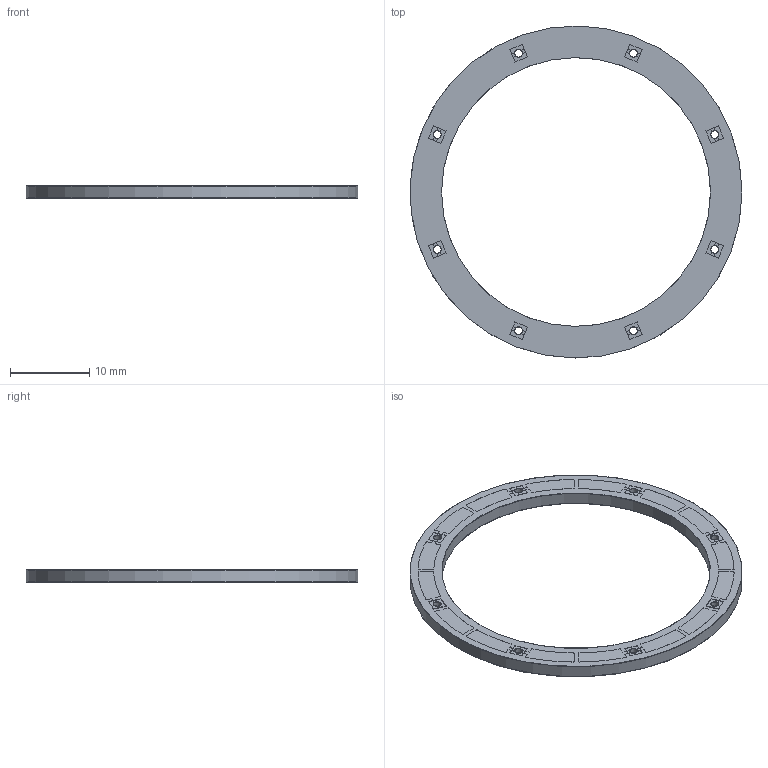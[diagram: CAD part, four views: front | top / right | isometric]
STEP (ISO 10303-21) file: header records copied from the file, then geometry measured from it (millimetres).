
FILE_DESCRIPTION(('KiCad electronic assembly'),'2;1');
FILE_NAME('mounted_cap_sense_v1.step','2025-12-02T09:36:47',('Pcbnew'),( 'Kicad'),'Open CASCADE STEP processor 7.8','KiCad to STEP converter' ,'Unknown');
FILE_SCHEMA(('AUTOMOTIVE_DESIGN { 1 0 10303 214 1 1 1 1 }'));
Length unit declared in the file: millimetre
Products named in the file (5): mounted_cap_sense_v1 1; mounted_cap_sense_v1_copper; mounted_cap_sense_v1_pad; mounted_cap_sense_v1_soldermask; mounted_cap_sense_v1_PCB
Assembly tree (4 placements, depth 2):
  mounted_cap_sense_v1 1
    mounted_cap_sense_v1_copper
    mounted_cap_sense_v1_pad
    mounted_cap_sense_v1_soldermask
    mounted_cap_sense_v1_PCB
Bounding box: 42 x 42 x 1.61 mm (x, y, z)
Volume: 720.7 mm3; surface area: 2802 mm2
Topology: 41 solids, 43 shells, 465 faces, 1223 edges, 842 vertices
Faces by surface type: plane 324, cylinder 141
Full cylindrical faces by diameter (mm): 0.95 x24, 1 x16, 34 x1, 42 x1
Entity records: 14827 total; most frequent: CARTESIAN_POINT 2535, DIRECTION 2451, ORIENTED_EDGE 2366, EDGE_CURVE 1223, LINE 935, VECTOR 935, VERTEX_POINT 842, AXIS2_PLACEMENT_3D 758
